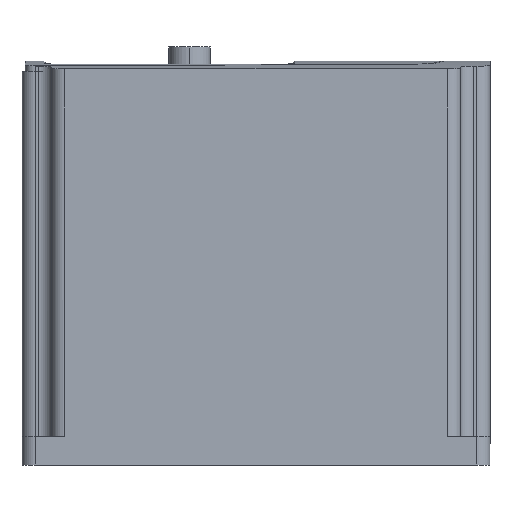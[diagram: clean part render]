
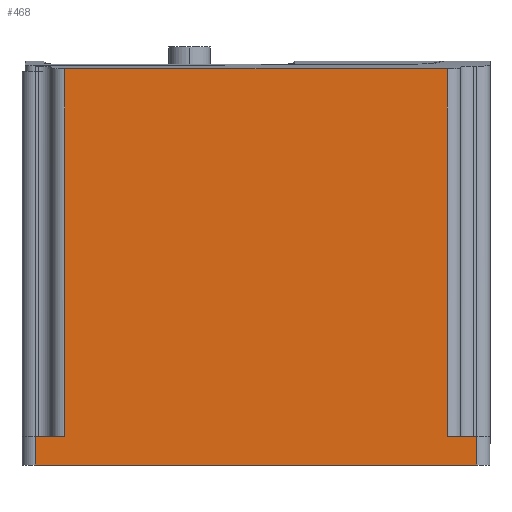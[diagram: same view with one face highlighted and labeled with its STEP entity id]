
A CAD part, left-side view. The second image highlights one B-rep face of the part: STEP entity #468.
In plain terms, the highlighted planar face has unit normal (-1, 0, 0).
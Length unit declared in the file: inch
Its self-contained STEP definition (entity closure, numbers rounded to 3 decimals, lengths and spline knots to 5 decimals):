
#1 = VERTEX_POINT ( 'NONE', #8188 ) ;
#6 = CARTESIAN_POINT ( 'NONE',  ( -2.36, -2.895, 6.12 ) ) ;
#200 = LINE ( 'NONE', #4704, #2589 ) ;
#245 = VERTEX_POINT ( 'NONE', #734 ) ;
#468 = ADVANCED_FACE ( 'NONE', ( #8178 ), #6874, .F. ) ;
#695 = DIRECTION ( 'NONE',  ( 0., 0., 1. ) ) ;
#734 = CARTESIAN_POINT ( 'NONE',  ( -2.36, -3.345, 0. ) ) ;
#759 = CARTESIAN_POINT ( 'NONE',  ( -2.36, 2.895, 6. ) ) ;
#763 = EDGE_CURVE ( 'NONE', #3332, #3317, #6789, .T. ) ;
#815 = ORIENTED_EDGE ( 'NONE', *, *, #7804, .T. ) ;
#894 = VECTOR ( 'NONE', #4442, 39.37008 ) ;
#917 = LINE ( 'NONE', #7302, #7682 ) ;
#978 = EDGE_LOOP ( 'NONE', ( #6570, #5284, #6048, #3707, #815, #7580, #7187, #3166 ) ) ;
#1062 = EDGE_CURVE ( 'NONE', #4856, #245, #200, .T. ) ;
#1154 = EDGE_CURVE ( 'NONE', #1, #7729, #7312, .T. ) ;
#1911 = LINE ( 'NONE', #2528, #894 ) ;
#2115 = VERTEX_POINT ( 'NONE', #759 ) ;
#2128 = DIRECTION ( 'NONE',  ( 0., -1., 0. ) ) ;
#2407 = DIRECTION ( 'NONE',  ( 0., 1., 0. ) ) ;
#2507 = LINE ( 'NONE', #6952, #7813 ) ;
#2528 = CARTESIAN_POINT ( 'NONE',  ( -2.36, 2.895, 6.12 ) ) ;
#2589 = VECTOR ( 'NONE', #2128, 39.37008 ) ;
#2672 = CARTESIAN_POINT ( 'NONE',  ( -2.36, -3.345, 0.435 ) ) ;
#2685 = VECTOR ( 'NONE', #2407, 39.37008 ) ;
#2769 = VERTEX_POINT ( 'NONE', #3453 ) ;
#2796 = EDGE_CURVE ( 'NONE', #245, #3317, #917, .T. ) ;
#2980 = EDGE_CURVE ( 'NONE', #2115, #7729, #1911, .T. ) ;
#3166 = ORIENTED_EDGE ( 'NONE', *, *, #3207, .T. ) ;
#3207 = EDGE_CURVE ( 'NONE', #1, #4856, #2507, .T. ) ;
#3317 = VERTEX_POINT ( 'NONE', #2672 ) ;
#3332 = VERTEX_POINT ( 'NONE', #3843 ) ;
#3453 = CARTESIAN_POINT ( 'NONE',  ( -2.36, -2.895, 6. ) ) ;
#3535 = CARTESIAN_POINT ( 'NONE',  ( -2.36, 3.345, 0. ) ) ;
#3707 = ORIENTED_EDGE ( 'NONE', *, *, #4053, .T. ) ;
#3843 = CARTESIAN_POINT ( 'NONE',  ( -2.36, -2.895, 0.435 ) ) ;
#3967 = CARTESIAN_POINT ( 'NONE',  ( -2.36, 2.895, 0.435 ) ) ;
#4053 = EDGE_CURVE ( 'NONE', #3332, #2769, #5243, .T. ) ;
#4333 = VECTOR ( 'NONE', #6155, 39.37008 ) ;
#4342 = DIRECTION ( 'NONE',  ( 0., 0., -1. ) ) ;
#4442 = DIRECTION ( 'NONE',  ( 0., 0., -1. ) ) ;
#4655 = DIRECTION ( 'NONE',  ( 0., 0., 1. ) ) ;
#4704 = CARTESIAN_POINT ( 'NONE',  ( -2.36, 3.545, 0. ) ) ;
#4856 = VERTEX_POINT ( 'NONE', #3535 ) ;
#4882 = CARTESIAN_POINT ( 'NONE',  ( -2.36, -3.545, 6. ) ) ;
#4969 = CARTESIAN_POINT ( 'NONE',  ( -2.36, -3.545, 0.435 ) ) ;
#5243 = LINE ( 'NONE', #6, #7952 ) ;
#5284 = ORIENTED_EDGE ( 'NONE', *, *, #2796, .T. ) ;
#5348 = DIRECTION ( 'NONE',  ( 0., -1., 0. ) ) ;
#5518 = LINE ( 'NONE', #4882, #2685 ) ;
#6048 = ORIENTED_EDGE ( 'NONE', *, *, #763, .F. ) ;
#6155 = DIRECTION ( 'NONE',  ( 0., -1., 0. ) ) ;
#6220 = AXIS2_PLACEMENT_3D ( 'NONE', #6798, #6336, #8015 ) ;
#6336 = DIRECTION ( 'NONE',  ( 1., 0., 0. ) ) ;
#6570 = ORIENTED_EDGE ( 'NONE', *, *, #1062, .T. ) ;
#6574 = CARTESIAN_POINT ( 'NONE',  ( -2.36, 3.545, 0.435 ) ) ;
#6789 = LINE ( 'NONE', #4969, #4333 ) ;
#6798 = CARTESIAN_POINT ( 'NONE',  ( -2.36, 3.545, 6.12 ) ) ;
#6874 = PLANE ( 'NONE',  #6220 ) ;
#6952 = CARTESIAN_POINT ( 'NONE',  ( -2.36, 3.345, 6.12 ) ) ;
#7187 = ORIENTED_EDGE ( 'NONE', *, *, #1154, .F. ) ;
#7302 = CARTESIAN_POINT ( 'NONE',  ( -2.36, -3.345, 6.12 ) ) ;
#7312 = LINE ( 'NONE', #6574, #8051 ) ;
#7580 = ORIENTED_EDGE ( 'NONE', *, *, #2980, .T. ) ;
#7682 = VECTOR ( 'NONE', #4655, 39.37008 ) ;
#7729 = VERTEX_POINT ( 'NONE', #3967 ) ;
#7804 = EDGE_CURVE ( 'NONE', #2769, #2115, #5518, .T. ) ;
#7813 = VECTOR ( 'NONE', #4342, 39.37008 ) ;
#7952 = VECTOR ( 'NONE', #695, 39.37008 ) ;
#8015 = DIRECTION ( 'NONE',  ( 0., 1., 0. ) ) ;
#8051 = VECTOR ( 'NONE', #5348, 39.37008 ) ;
#8178 = FACE_OUTER_BOUND ( 'NONE', #978, .T. ) ;
#8188 = CARTESIAN_POINT ( 'NONE',  ( -2.36, 3.345, 0.435 ) ) ;
